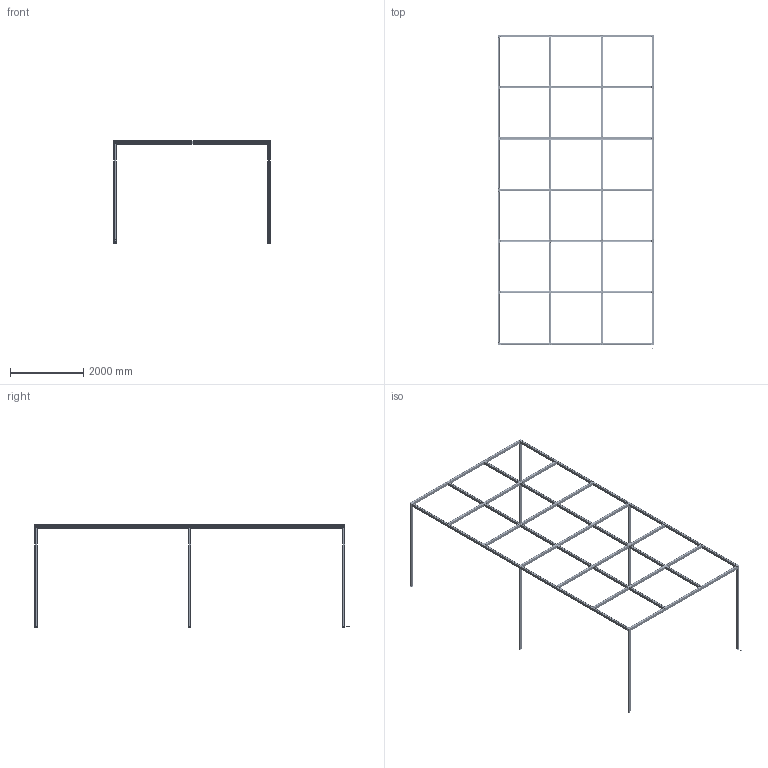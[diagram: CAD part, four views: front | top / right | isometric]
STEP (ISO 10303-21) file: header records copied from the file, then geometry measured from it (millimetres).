
FILE_DESCRIPTION (( 'STEP AP214' ), '1' );
FILE_NAME ('1001968.STEP', '2025-09-15T08:49:31', ( '' ), ( '' ), 'SwSTEP 2.0', 'SolidWorks 2025', '' );
FILE_SCHEMA (( 'AUTOMOTIVE_DESIGN' ));
Length unit declared in the file: millimetre
Products named in the file (1): 1001968
Bounding box: 4262.4 x 8577.5 x 2808.6 mm (x, y, z)
Volume: 182761017.6 mm3; surface area: 45269299.8 mm2
Topology: 243 solids, 243 shells, 14619 faces, 40662 edges, 26817 vertices
Faces by surface type: plane 9645, cylinder 4168, bspline 516, cone 156, sphere 102, torus 32
Entity records: 499061 total; most frequent: CARTESIAN_POINT 121033, ORIENTED_EDGE 81300, DIRECTION 74462, EDGE_CURVE 40650, LINE 30814, VECTOR 30814, VERTEX_POINT 26811, AXIS2_PLACEMENT_3D 21824
